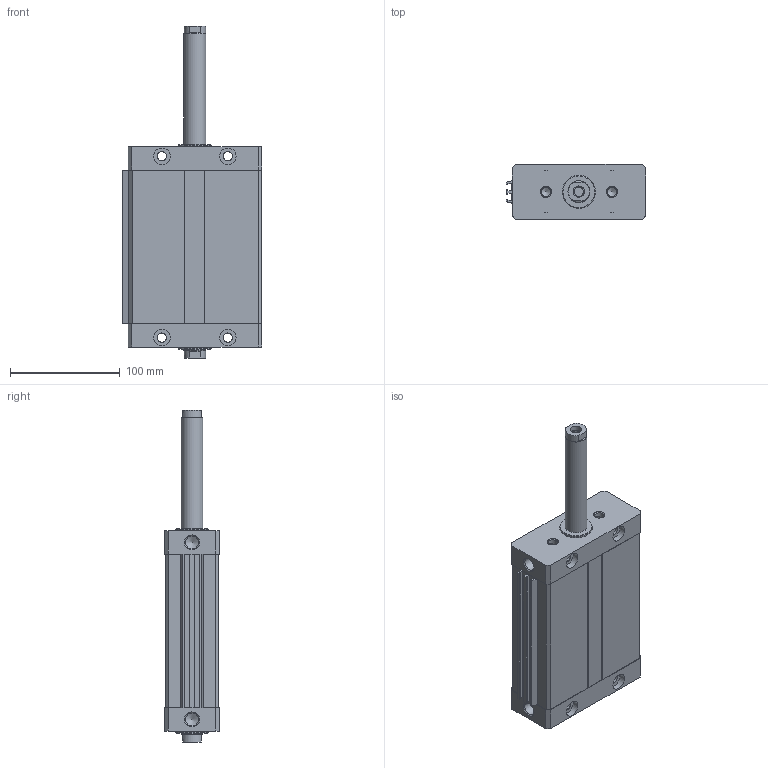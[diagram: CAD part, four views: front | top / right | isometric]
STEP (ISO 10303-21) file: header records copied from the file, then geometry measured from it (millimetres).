
FILE_DESCRIPTION((''),'2;1');
FILE_NAME('I:\Area Tecnica\Disegni\VARIE-3D\Componenti\1370 - CPO\1370_##_0000_03\1370_63_0100_03-01.iam.step','2010-12-16T11:01:15',(''),(''),'Autodesk Inventor 2011','Autodesk Inventor 2011','');
FILE_SCHEMA(('AUTOMOTIVE_DESIGN { 1 0 10303 214 1 1 1 1 }'));
Length unit declared in the file: millimetre
Products named in the file (5): 1370_63_0100_03-01; 1370_05_63_0000; 1370_06_63_0100; 1370_08_63_0000; 1370_3_63_0100
Assembly tree (4 placements, depth 2):
  1370_63_0100_03-01
    1370_05_63_0000
    1370_06_63_0100
    1370_08_63_0000
    1370_3_63_0100
Bounding box: 126.75 x 50 x 302 mm (x, y, z)
Volume: 803413.1 mm3; surface area: 177743.5 mm2
Topology: 4 solids, 4 shells, 164 faces, 398 edges, 252 vertices
Faces by surface type: plane 94, cylinder 50, cone 20
Full cylindrical faces by diameter (mm): 8.5 x20, 10.3 x2, 11.75 x2, 15 x8, 20 x4, 30 x2
Entity records: 4722 total; most frequent: DIRECTION 794, CARTESIAN_POINT 737, ORIENTED_EDGE 652, EDGE_CURVE 326, AXIS2_PLACEMENT_3D 295, EDGE_LOOP 254, VERTEX_POINT 238, VECTOR 204
